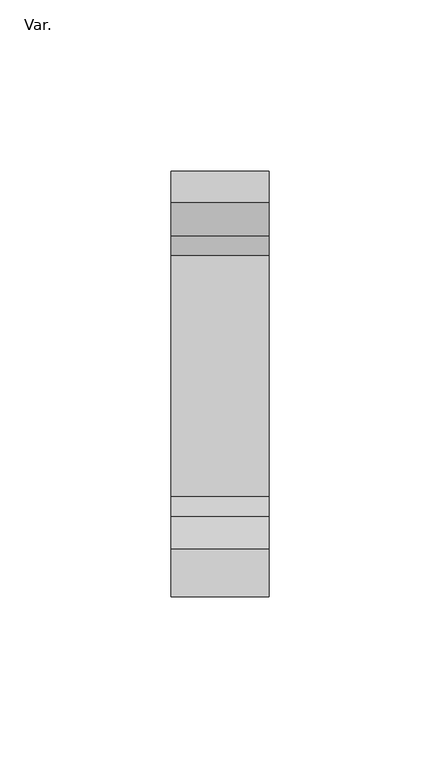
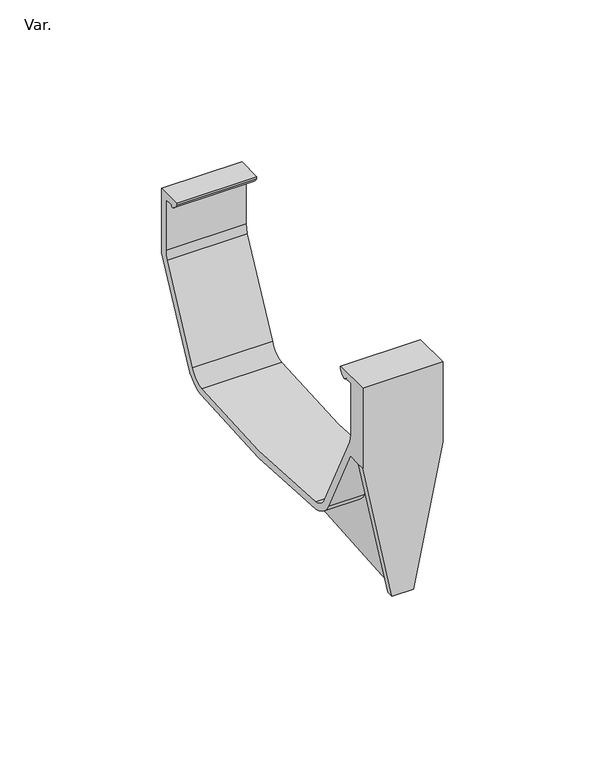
"""IFC4 building model written with IfcOpenShell, lengths in millimetres: pipe fitting geometry, PavcoWavin_UnionesDeTuberia_ZCanal Raingo_Soporte_NoUsarUnion : Var.."""

import ifcopenshell
import ifcopenshell.guid

model = None  # the IFC model being written
_history = None  # IfcOwnerHistory: only IFC2X3 demands one
_inside = {}  # id of a spatial element -> (the spatial element, [elements in it])
_under = {}  # id of a project, library or spatial element -> (it, [spatial elements below it])
_declared = {}  # id of a project -> (the project, [libraries it declares])
_typed = {}  # id of a type object -> (the type object, [elements of that type])
_made_of = {}  # id of a material, layer set ... -> (it, [elements and type objects made of it])


def new_model(schema):
    """Start an empty IFC model of exactly this schema.

    Asked for "IFC4X3", IfcOpenShell would pick the latest addendum, in which some entities
    have other attributes; the version numbers below select the first issue.
    IFC2X3 requires an IfcOwnerHistory on every rooted entity: one is made here for all.
    """
    global model, _history
    if schema == "IFC4X3":
        model = ifcopenshell.file(schema_version=(4, 3, 0, 0))
    else:
        model = ifcopenshell.file(schema=schema)
    _inside.clear()
    _under.clear()
    _declared.clear()
    _typed.clear()
    _made_of.clear()
    _history = None
    if model.schema == "IFC2X3":
        org = make("IfcOrganization", Name="unknown")
        user = make(
            "IfcPersonAndOrganization",
            ThePerson=make("IfcPerson", FamilyName="unknown"),
            TheOrganization=org,
        )
        app = make(
            "IfcApplication",
            ApplicationDeveloper=org,
            Version="unknown",
            ApplicationFullName="unknown",
            ApplicationIdentifier="unknown",
        )
        _history = make(
            "IfcOwnerHistory",
            OwningUser=user,
            OwningApplication=app,
            ChangeAction="ADDED",
            CreationDate=0,
        )
    return model


def make(cls, **values):
    """One entity of the class cls with the attributes given. An attribute that is None is left unset."""
    return model.create_entity(
        cls, **{name: value for name, value in values.items() if value is not None}
    )


def rooted(cls, **values):
    """An entity with a GlobalId (a new one), such as an element, a storey or a relation."""
    return make(cls, GlobalId=ifcopenshell.guid.new(), OwnerHistory=_history, **values)


def si_unit(unit_type, name, prefix=None):
    """IfcSIUnit, for example si_unit("LENGTHUNIT", "METRE", prefix="MILLI")."""
    return make("IfcSIUnit", UnitType=unit_type, Prefix=prefix, Name=name)


def assignment(units):
    """IfcUnitAssignment: the units of a project."""
    return None if units is None else make("IfcUnitAssignment", Units=units)


def point(xyz):
    """IfcCartesianPoint."""
    return None if xyz is None else make("IfcCartesianPoint", Coordinates=xyz)


def direction(xyz):
    """IfcDirection."""
    return None if xyz is None else make("IfcDirection", DirectionRatios=xyz)


def frame(location, z_axis=None, x_axis=None):
    """IfcAxis2Placement3D, a coordinate frame: its origin and axes. An axis left out is left unset."""
    return make(
        "IfcAxis2Placement3D",
        Location=point(location),
        Axis=direction(z_axis),
        RefDirection=direction(x_axis),
    )


def origin():
    """The frame at (0, 0, 0) with its axes left unset."""
    return frame((0.0, 0.0, 0.0))


def place(relative_to, where):
    """IfcLocalPlacement: puts the frame where relative to a parent placement (None: the world)."""
    return make(
        "IfcLocalPlacement", PlacementRelTo=relative_to, RelativePlacement=where
    )


def context(
    kind, dimensions, precision=None, world=None, true_north=None, identifier=None
):
    """IfcGeometricRepresentationContext, for example the 3D "Model" context."""
    return make(
        "IfcGeometricRepresentationContext",
        ContextIdentifier=identifier,
        ContextType=kind,
        CoordinateSpaceDimension=dimensions,
        Precision=precision,
        WorldCoordinateSystem=world,
        TrueNorth=true_north,
    )


def project(units=None, contexts=None):
    """IfcProject with its units and contexts."""
    return rooted(
        "IfcProject",
        Name="project",
        RepresentationContexts=contexts,
        UnitsInContext=assignment(units),
    )


def spatial(cls, under=None, at=None, **own):
    """A site, building, storey or space (cls), placed at a placement, below another one or the project."""
    s = rooted(cls, ObjectPlacement=at, **own)
    if under is not None:
        _under.setdefault(under.id(), (under, []))[1].append(s)
    return s


def polyline(points):
    """IfcPolyline through the points."""
    return make("IfcPolyline", Points=[point(p) for p in points])


def circle_curve(where, radius):
    """IfcCircle in the frame where."""
    return make("IfcCircle", Position=where, Radius=radius)


def shape(context_of_items, identifier, shape_type, items):
    """IfcShapeRepresentation: the items that make up one representation, for example the "Body"."""
    return make(
        "IfcShapeRepresentation",
        ContextOfItems=context_of_items,
        RepresentationIdentifier=identifier,
        RepresentationType=shape_type,
        Items=items,
    )


def source(mapping_origin, context_of_items, identifier, shape_type, items):
    """IfcRepresentationMap: a shape defined once, which mapped items show again and again."""
    return make(
        "IfcRepresentationMap",
        MappingOrigin=mapping_origin,
        MappedRepresentation=shape(context_of_items, identifier, shape_type, items),
    )


def transform(
    local_origin,
    x_axis=None,
    y_axis=None,
    z_axis=None,
    scale=None,
    scale2=None,
    scale3=None,
    uniform=True,
):
    """IfcCartesianTransformationOperator3D, or its non-uniform kind. x_axis, y_axis, z_axis: its Axis1, 2, 3."""
    if uniform:
        return make(
            "IfcCartesianTransformationOperator3D",
            Axis1=direction(x_axis),
            Axis2=direction(y_axis),
            LocalOrigin=point(local_origin),
            Scale=scale,
            Axis3=direction(z_axis),
        )
    return make(
        "IfcCartesianTransformationOperator3DnonUniform",
        Axis1=direction(x_axis),
        Axis2=direction(y_axis),
        LocalOrigin=point(local_origin),
        Scale=scale,
        Axis3=direction(z_axis),
        Scale2=scale2,
        Scale3=scale3,
    )


def mapped(mapping_source, mapping_target):
    """IfcMappedItem: shows the shape of a source again, moved by a transform."""
    return make(
        "IfcMappedItem", MappingSource=mapping_source, MappingTarget=mapping_target
    )


def made_of(thing, what):
    """Note that an element or type object is made of a material, layer set ...; save() writes the relation."""
    if what is not None:
        _made_of.setdefault(what.id(), (what, []))[1].append(thing)
    return thing


def element(
    cls,
    number,
    at=None,
    inside=None,
    cuts=None,
    type_object=None,
    material=None,
    context=None,
    identifier="Body",
    shape_type=None,
    held_by="IfcProductDefinitionShape",
    body=None,
    shapes=None,
    **own,
):
    """One element of the class cls, such as IfcWall. Its Tag is "e" and its number.

    at: its placement. inside: the storey or other place that contains it. cuts: it is an
    opening in that element (IfcRelVoidsElement). A single representation is given by context,
    identifier, shape_type and body (its items); several are given by shapes. held_by: the class
    of the entity that holds the representations. save() writes the other relations.
    """
    e = rooted(cls, Tag="e%d" % number, ObjectPlacement=at, **own)
    if body is not None:
        shapes = [shape(context, identifier, shape_type, body)]
    if shapes is not None:
        e.Representation = make(held_by, Representations=shapes)
    if inside is not None:
        _inside.setdefault(inside.id(), (inside, []))[1].append(e)
    if cuts is not None:
        rooted(
            "IfcRelVoidsElement", RelatingBuildingElement=cuts, RelatedOpeningElement=e
        )
    if type_object is not None:
        _typed.setdefault(type_object.id(), (type_object, []))[1].append(e)
    return made_of(e, material)


def aggregate(whole, parts):
    """IfcRelAggregates: a whole, such as a stair, and the parts it consists of."""
    return rooted("IfcRelAggregates", RelatingObject=whole, RelatedObjects=parts)


def save(model, path):
    """Write the relations noted so far, then the file.

    IfcRelAggregates (storeys below a building ...), IfcRelContainedInSpatialStructure (elements
    in a storey), IfcRelDefinesByType, IfcRelAssociatesMaterial and IfcRelDeclares: one each for
    every whole, place, type object, material and project.
    """
    for whole, parts in _under.values():
        aggregate(whole, parts)
    for where, things in _inside.values():
        rooted(
            "IfcRelContainedInSpatialStructure",
            RelatedElements=things,
            RelatingStructure=where,
        )
    for kind, things in _typed.values():
        rooted("IfcRelDefinesByType", RelatedObjects=things, RelatingType=kind)
    for what, things in _made_of.values():
        rooted("IfcRelAssociatesMaterial", RelatedObjects=things, RelatingMaterial=what)
    for by, libraries in _declared.values():
        rooted("IfcRelDeclares", RelatingContext=by, RelatedDefinitions=libraries)
    model.write(path)


def plane_surface(at):
    """IfcPlane: the flat surface through the origin of the frame at, square to its z axis."""
    return make("IfcPlane", Position=at)


def cylinder_surface(at, radius):
    """IfcCylindricalSurface: all points at the distance radius from the z axis of the frame at."""
    return make("IfcCylindricalSurface", Position=at, Radius=radius)


def revolved_surface(curve, axis_point, axis_direction):
    """IfcSurfaceOfRevolution: the curve turned about the line through axis_point along axis_direction."""
    return make(
        "IfcSurfaceOfRevolution",
        SweptCurve=make("IfcArbitraryOpenProfileDef", ProfileType="CURVE", Curve=curve),
        AxisPosition=make("IfcAxis1Placement", Location=point(axis_point), Axis=direction(axis_direction)),
    )


def advanced_brep(points, edges, surfaces, faces):
    """IfcAdvancedBrep: a solid bounded by faces that lie on surfaces and meet in shared edges.

    An edge is (start, end): straight between two places in points (the first is 0);
    or (start, end, curve); or (start, end, curve, False) where it runs against its curve.
    A face is (place in surfaces, loops), or (place, loops, False) where it looks against
    its surface's normal. A loop lists edges by number (the first is 1), with a minus sign
    where the edge is run from its end to its start. The first loop is the outer one.
    """
    corners = [point(p) for p in points]
    vertices = [make("IfcVertexPoint", VertexGeometry=c) for c in corners]
    made = []
    for start, end, *more in edges:
        made.append(
            make(
                "IfcEdgeCurve",
                EdgeStart=vertices[start],
                EdgeEnd=vertices[end],
                EdgeGeometry=more[0] if more else make("IfcPolyline", Points=[corners[start], corners[end]]),
                SameSense=more[1] if len(more) > 1 else True,
            )
        )
    hull = []
    for where, loops, *sense in faces:
        bounds = []
        for j, loop in enumerate(loops):
            ring = [make("IfcOrientedEdge", EdgeElement=made[abs(k) - 1], Orientation=k > 0) for k in loop]
            bounds.append(
                make(
                    "IfcFaceOuterBound" if j == 0 else "IfcFaceBound",
                    Bound=make("IfcEdgeLoop", EdgeList=ring),
                    Orientation=True,
                )
            )
        hull.append(make("IfcAdvancedFace", Bounds=bounds, FaceSurface=surfaces[where], SameSense=sense[0] if sense else True))
    return make("IfcAdvancedBrep", Outer=make("IfcClosedShell", CfsFaces=hull))


def var_95f52222(model_context):
    return source(origin(), model_context, "Body", "AdvancedBrep", [
        advanced_brep(
        [(14.275, 59.74, 57.8143059), (14.275, 59.74, 82.0566501), (14.275, 50.65, 82.0566501), (14.275, 50.65, 81.2566501), (14.275, 53.0835657, 78.8230844), (14.275, 53.8, 79.4666501), (14.275, 57.15, 79.4666501), (14.275, 57.15, 60.3166501), (14.275, 56.4709703, 57.0639679), (14.275, 40.8948641, 25.8513061), (14.275, 35.1949678, 21.5054585), (14.275, -35.1949678, 21.5054585), (14.275, -40.8948641, 25.8513061), (14.275, -56.4709703, 57.0639679), (14.275, -57.15, 60.3166501), (14.275, -57.15, 79.4666501), (14.275, -53.8, 79.4666501), (14.275, -53.0835657, 78.8230844), (14.275, -50.65, 81.2566501), (14.275, -50.65, 82.0566501), (14.275, -64.46, 82.0566501), (14.275, -64.46, 51.9166501), (14.275, -61.84, 51.9166501), (14.275, -56.7968831, 51.9166501), (14.275, -43.2123274, 24.6948186), (14.275, -35.5891114, 18.9438504), (14.275, 35.5891114, 18.9438504), (14.275, 43.2123274, 24.6948186), (-14.275, -64.46, 82.0566501), (-14.275, -50.65, 82.0566501), (-14.275, -50.65, 81.2566501), (-14.275, -53.0835657, 78.8230844), (-14.275, -53.8, 79.4666501), (-14.275, -57.15, 79.4666501), (-14.275, -57.15, 60.3166501), (-14.275, -56.4709703, 57.0639679), (-14.275, -40.8948641, 25.8513061), (-14.275, -35.1949678, 21.5054585), (-14.275, 35.1949678, 21.5054585), (-14.275, 40.8948641, 25.8513061), (-14.275, 56.4709703, 57.0639679), (-14.275, 57.15, 60.3166501), (-14.275, 57.15, 79.4666501), (-14.275, 53.8, 79.4666501), (-14.275, 53.0835657, 78.8230844), (-14.275, 50.65, 81.2566501), (-14.275, 50.65, 82.0566501), (-14.275, 59.74, 82.0566501), (-14.275, 59.74, 57.8143059), (-14.275, 43.2123274, 24.6948186), (-14.275, 35.5891114, 18.9438504), (-14.275, -35.5891114, 18.9438504), (-14.275, -43.2123274, 24.6948186), (-14.275, -56.7968831, 51.9166501), (-14.275, -61.84, 51.9166501), (-14.275, -64.46, 51.9166501), (-3.83, -64.46, 0.0), (3.83, -64.46, 0.0), (-1.265, -61.84, 0.0), (1.265, -61.84, 0.0), (3.83, -61.84, 0.0), (-3.83, -61.84, 0.0), (1.265, 40.2631031, 7.8814014), (-1.265, 40.2631031, 7.8814014), (1.265, 44.6335776, 11.3214876), (-1.265, 44.6335776, 11.3214876), (1.265, 59.74, 57.8143059), (-1.265, 59.74, 57.8143059), (1.265, -43.2123274, 24.6948186), (1.265, -56.7968831, 51.9166501), (1.265, -61.84, 51.9166501), (1.265, 43.2123274, 24.6948186), (1.265, 35.5891114, 18.9438504), (1.265, -35.5891114, 18.9438504), (-1.265, -43.2123274, 24.6948186), (-1.265, -35.5891114, 18.9438504), (-1.265, 35.5891114, 18.9438504), (-1.265, 43.2123274, 24.6948186), (-1.265, -61.84, 51.9166501), (-1.265, -56.7968831, 51.9166501)],
        [
            (0, 1),
            (1, 2),
            (2, 3),
            (3, 4, circle_curve(frame((14.275, 55.4114181, 83.5845026), z_axis=(1.0, 0.0, 0.0), x_axis=(0.0, 1.0, 0.0)), 5.3)),
            (4, 5, circle_curve(frame((14.275, 53.1527286, 79.4666501), z_axis=(1.0, 0.0, 0.0), x_axis=(0.0, 1.0, 0.0)), 0.6472714)),
            (5, 6),
            (6, 7),
            (7, 8, circle_curve(frame((14.275, 49.02, 60.3166501), z_axis=(-1.0, 0.0, 0.0), x_axis=(0.0, -1.0, 0.0)), 8.13)),
            (8, 9),
            (9, 10, circle_curve(frame((14.275, 33.6203555, 29.4815162), z_axis=(-1.0, 0.0, 0.0), x_axis=(0.0, -1.0, 0.0)), 8.13)),
            (10, 11, circle_curve(frame((14.275, 0.0, 324.2666751), z_axis=(-1.0, 0.0, 0.0), x_axis=(0.0, 1.0, 0.0)), 304.8)),
            (11, 12, circle_curve(frame((14.275, -33.6203555, 29.4815162), z_axis=(-1.0, 0.0, 0.0), x_axis=(0.0, 1.0, 0.0)), 8.13)),
            (12, 13),
            (13, 14, circle_curve(frame((14.275, -49.02, 60.3166501), z_axis=(-1.0, 0.0, 0.0), x_axis=(0.0, 1.0, 0.0)), 8.13)),
            (14, 15),
            (15, 16),
            (16, 17, circle_curve(frame((14.275, -53.1527286, 79.4666501), z_axis=(1.0, 0.0, 0.0), x_axis=(0.0, -1.0, 0.0)), 0.6472714)),
            (17, 18, circle_curve(frame((14.275, -55.4114181, 83.5845026), z_axis=(1.0, 0.0, 0.0), x_axis=(0.0, -1.0, 0.0)), 5.3)),
            (18, 19),
            (19, 20),
            (20, 21),
            (21, 22),
            (22, 23),
            (23, 24),
            (24, 25, circle_curve(frame((14.275, -33.6203555, 29.4815162), z_axis=(1.0, 0.0, 0.0), x_axis=(0.0, 1.0, 0.0)), 10.72)),
            (25, 26, circle_curve(frame((14.275, 0.0, 324.2666751), z_axis=(1.0, 0.0, 0.0), x_axis=(0.0, 1.0, 0.0)), 307.39)),
            (26, 27, circle_curve(frame((14.275, 33.6203555, 29.4815162), z_axis=(1.0, 0.0, 0.0), x_axis=(0.0, -1.0, 0.0)), 10.72)),
            (27, 0),
            (28, 29),
            (29, 30),
            (30, 31, circle_curve(frame((-14.275, -55.4114181, 83.5845026), z_axis=(-1.0, 0.0, 0.0), x_axis=(0.0, -1.0, 0.0)), 5.3)),
            (31, 32, circle_curve(frame((-14.275, -53.1527286, 79.4666501), z_axis=(-1.0, 0.0, 0.0), x_axis=(0.0, -1.0, 0.0)), 0.6472714)),
            (32, 33),
            (33, 34),
            (34, 35, circle_curve(frame((-14.275, -49.02, 60.3166501), z_axis=(1.0, 0.0, 0.0), x_axis=(0.0, 1.0, 0.0)), 8.13)),
            (35, 36),
            (36, 37, circle_curve(frame((-14.275, -33.6203555, 29.4815162), z_axis=(1.0, 0.0, 0.0), x_axis=(0.0, 1.0, 0.0)), 8.13)),
            (37, 38, circle_curve(frame((-14.275, 0.0, 324.2666751), z_axis=(1.0, 0.0, 0.0), x_axis=(0.0, 1.0, 0.0)), 304.8)),
            (38, 39, circle_curve(frame((-14.275, 33.6203555, 29.4815162), z_axis=(1.0, 0.0, 0.0), x_axis=(0.0, -1.0, 0.0)), 8.13)),
            (39, 40),
            (40, 41, circle_curve(frame((-14.275, 49.02, 60.3166501), z_axis=(1.0, 0.0, 0.0), x_axis=(0.0, -1.0, 0.0)), 8.13)),
            (41, 42),
            (42, 43),
            (43, 44, circle_curve(frame((-14.275, 53.1527286, 79.4666501), z_axis=(-1.0, 0.0, 0.0), x_axis=(0.0, 1.0, 0.0)), 0.6472714)),
            (44, 45, circle_curve(frame((-14.275, 55.4114181, 83.5845026), z_axis=(-1.0, 0.0, 0.0), x_axis=(0.0, 1.0, 0.0)), 5.3)),
            (45, 46),
            (46, 47),
            (47, 48),
            (48, 49),
            (49, 50, circle_curve(frame((-14.275, 33.6203555, 29.4815162), z_axis=(-1.0, 0.0, 0.0), x_axis=(0.0, -1.0, 0.0)), 10.72)),
            (50, 51, circle_curve(frame((-14.275, 0.0, 324.2666751), z_axis=(-1.0, 0.0, 0.0), x_axis=(0.0, 1.0, 0.0)), 307.39)),
            (51, 52, circle_curve(frame((-14.275, -33.6203555, 29.4815162), z_axis=(-1.0, 0.0, 0.0), x_axis=(0.0, 1.0, 0.0)), 10.72)),
            (52, 53),
            (53, 54),
            (54, 55),
            (55, 28),
            (20, 28),
            (55, 56),
            (56, 57),
            (57, 21),
            (1, 47),
            (46, 2),
            (45, 3),
            (44, 4),
            (43, 5),
            (42, 6),
            (14, 34),
            (33, 15),
            (32, 16),
            (31, 17),
            (30, 18),
            (29, 19),
            (41, 7),
            (40, 8),
            (39, 9),
            (38, 10),
            (37, 11),
            (36, 12),
            (35, 13),
            (58, 59),
            (59, 60),
            (60, 57),
            (56, 61),
            (61, 58),
            (62, 59),
            (58, 63),
            (63, 62),
            (64, 62, circle_curve(frame((1.265, 39.8782947, 12.8665717), z_axis=(-1.0, 0.0, 0.0), x_axis=(0.0, 1.0, 0.0)), 5.0)),
            (63, 65, circle_curve(frame((-1.265, 39.8782947, 12.8665717), z_axis=(1.0, 0.0, 0.0), x_axis=(0.0, 1.0, 0.0)), 5.0)),
            (65, 64),
            (66, 64),
            (65, 67),
            (67, 66),
            (0, 66),
            (67, 48),
            (68, 69),
            (69, 70),
            (70, 59),
            (66, 71),
            (71, 72, circle_curve(frame((1.265, 33.6203555, 29.4815162), z_axis=(-1.0, 0.0, 0.0), x_axis=(0.0, -1.0, 0.0)), 10.72)),
            (72, 73, circle_curve(frame((1.265, 0.0, 324.2666751), z_axis=(-1.0, 0.0, 0.0), x_axis=(0.0, 1.0, 0.0)), 307.39)),
            (73, 68, circle_curve(frame((1.265, -33.6203555, 29.4815162), z_axis=(-1.0, 0.0, 0.0), x_axis=(0.0, 1.0, 0.0)), 10.72)),
            (68, 24),
            (23, 69),
            (22, 70),
            (22, 60),
            (27, 71),
            (26, 72),
            (25, 73),
            (74, 75, circle_curve(frame((-1.265, -33.6203555, 29.4815162), z_axis=(1.0, 0.0, 0.0), x_axis=(0.0, 1.0, 0.0)), 10.72)),
            (75, 76, circle_curve(frame((-1.265, 0.0, 324.2666751), z_axis=(1.0, 0.0, 0.0), x_axis=(0.0, 1.0, 0.0)), 307.39)),
            (76, 77, circle_curve(frame((-1.265, 33.6203555, 29.4815162), z_axis=(1.0, 0.0, 0.0), x_axis=(0.0, -1.0, 0.0)), 10.72)),
            (77, 67),
            (58, 78),
            (78, 79),
            (79, 74),
            (79, 53),
            (52, 74),
            (78, 54),
            (61, 54),
            (77, 49),
            (76, 50),
            (75, 51),
        ],
        [
            plane_surface(frame((14.275, -64.46, 0.0), z_axis=(1.0, 0.0, 0.0), x_axis=(0.0, 0.0, -1.0))),
            plane_surface(frame((-14.275, -64.46, 0.0), z_axis=(-1.0, 0.0, 0.0), x_axis=(0.0, 0.0, 1.0))),
            plane_surface(frame((14.275, -64.46, 82.0566501), z_axis=(0.0, -1.0, 0.0), x_axis=(-1.0, 0.0, 0.0))),
            plane_surface(frame((14.275, 59.74, 82.0566501), z_axis=(0.0, 0.0, 1.0), x_axis=(-1.0, 0.0, 0.0))),
            plane_surface(frame((14.275, 50.65, 82.0566501), z_axis=(0.0, -1.0, 0.0), x_axis=(-1.0, 0.0, 0.0))),
            cylinder_surface(frame((-14.275, 55.4114181, 83.5845026), z_axis=(1.0, 0.0, 0.0), x_axis=(0.0, 1.0, 0.0)), 5.3),
            cylinder_surface(frame((-14.275, 53.1527286, 79.4666501), z_axis=(1.0, 0.0, 0.0), x_axis=(0.0, 1.0, 0.0)), 0.6472714),
            plane_surface(frame((14.275, 53.8, 79.4666501), z_axis=(0.0, 0.0, -1.0), x_axis=(-1.0, 0.0, 0.0))),
            plane_surface(frame((14.275, -57.15, 60.3166501), z_axis=(0.0, 1.0, 0.0), x_axis=(-1.0, 0.0, 0.0))),
            plane_surface(frame((14.275, -57.15, 79.4666501), z_axis=(0.0, 0.0, -1.0), x_axis=(-1.0, 0.0, 0.0))),
            cylinder_surface(frame((-14.275, -53.1527286, 79.4666501), z_axis=(1.0, 0.0, 0.0), x_axis=(0.0, -1.0, 0.0)), 0.6472714),
            cylinder_surface(frame((-14.275, -55.4114181, 83.5845026), z_axis=(1.0, 0.0, 0.0), x_axis=(0.0, -1.0, 0.0)), 5.3),
            plane_surface(frame((14.275, -50.65, 81.2566501), z_axis=(0.0, 1.0, 0.0), x_axis=(-1.0, 0.0, 0.0))),
            plane_surface(frame((14.275, -50.65, 82.0566501), z_axis=(0.0, 0.0, 1.0), x_axis=(-1.0, 0.0, 0.0))),
            plane_surface(frame((14.275, 57.15, 79.4666501), z_axis=(0.0, -1.0, 0.0), x_axis=(-1.0, 0.0, 0.0))),
            revolved_surface(polyline([(-14.275, 40.89, 60.3166501), (14.275, 40.89, 60.3166501)]), (-14.275, 49.02, 60.3166501), (-1.0, 0.0, 0.0)),
            plane_surface(frame((14.275, 56.4709703, 57.0639679), z_axis=(0.0, -0.8947735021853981, 0.4465203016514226), x_axis=(-1.0, 0.0, 0.0))),
            revolved_surface(polyline([(-14.275, 25.4903555, 29.4815162), (14.275, 25.4903555, 29.4815162)]), (-14.275, 33.6203555, 29.4815162), (-1.0, 0.0, 0.0)),
            revolved_surface(polyline([(-14.275, 304.8, 324.2666751), (14.275, 304.8, 324.2666751)]), (-14.275, 0.0, 324.2666751), (-1.0, 0.0, 0.0)),
            revolved_surface(polyline([(-14.275, -25.4903555, 29.4815162), (14.275, -25.4903555, 29.4815162)]), (-14.275, -33.6203555, 29.4815162), (-1.0, 0.0, 0.0)),
            plane_surface(frame((14.275, -40.8948641, 25.8513061), z_axis=(0.0, 0.8947735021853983, 0.4465203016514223), x_axis=(-1.0, 0.0, 0.0))),
            revolved_surface(polyline([(-14.275, -40.89, 60.3166501), (14.275, -40.89, 60.3166501)]), (-14.275, -49.02, 60.3166501), (-1.0, 0.0, 0.0)),
            plane_surface(frame((14.275, -64.46, 0.0), z_axis=(0.0, 0.0, -1.0), x_axis=(-1.0, 0.0, 0.0))),
            plane_surface(frame((14.275, -61.84, 0.0), z_axis=(0.0, 0.07696167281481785, -0.9970340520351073), x_axis=(-1.0, 0.0, 0.0))),
            cylinder_surface(frame((-14.275, 39.8782947, 12.8665717), z_axis=(1.0, 0.0, 0.0), x_axis=(0.0, 1.0, 0.0)), 5.0),
            plane_surface(frame((14.275, 44.6335776, 11.3214876), z_axis=(0.0, 0.9510565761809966, -0.30901681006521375), x_axis=(-1.0, 0.0, 0.0))),
            plane_surface(frame((14.275, 59.74, 57.8143059), z_axis=(0.0, 1.0, 0.0), x_axis=(-1.0, 0.0, 0.0))),
            plane_surface(frame((1.265, -58.7884337, 55.9074803), z_axis=(1.0000000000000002, 0.0, 0.0), x_axis=(0.0, 0.44652030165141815, -0.8947735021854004))),
            plane_surface(frame((14.275, -43.2123274, 24.6948186), z_axis=(0.0, -0.8947735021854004, -0.44652030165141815), x_axis=(-1.0, 0.0, 0.0))),
            plane_surface(frame((14.275, -56.7968831, 51.9166501), z_axis=(0.0, 0.0, -1.0), x_axis=(-1.0, 0.0, 0.0))),
            plane_surface(frame((14.275, -61.84, 51.9166501), z_axis=(0.0, 1.0, 0.0), x_axis=(-1.0, 0.0, 0.0))),
            plane_surface(frame((14.275, 59.74, 57.8143059), z_axis=(0.0, 0.8947735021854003, -0.44652030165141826), x_axis=(-1.0, 0.0, 0.0))),
            cylinder_surface(frame((1.265, 33.6203555, 29.4815162), z_axis=(-1.0, 0.0, 0.0), x_axis=(0.0, -1.0, 0.0)), 10.72),
            cylinder_surface(frame((1.265, 0.0, 324.2666751), z_axis=(-1.0, 0.0, 0.0), x_axis=(0.0, 1.0, 0.0)), 307.39),
            cylinder_surface(frame((1.265, -33.6203555, 29.4815162), z_axis=(-1.0, 0.0, 0.0), x_axis=(0.0, 1.0, 0.0)), 10.72),
            plane_surface(frame((-1.265, -22.9003555, 29.4815162), z_axis=(-1.0, 0.0, 0.0), x_axis=(0.0, 0.0, -1.0))),
            plane_surface(frame((-14.275, -56.7968831, 51.9166501), z_axis=(0.0, -0.8947735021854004, -0.44652030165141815), x_axis=(1.0, 0.0, 0.0))),
            plane_surface(frame((-14.275, -61.84, 51.9166501), z_axis=(0.0, 0.0, -1.0), x_axis=(1.0, 0.0, 0.0))),
            plane_surface(frame((-14.275, -61.84, 0.0), z_axis=(0.0, 1.0, 0.0), x_axis=(1.0, 0.0, 0.0))),
            plane_surface(frame((-14.275, 43.2123274, 24.6948186), z_axis=(0.0, 0.8947735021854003, -0.44652030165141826), x_axis=(1.0, 0.0, 0.0))),
            cylinder_surface(frame((-1.265, 33.6203555, 29.4815162), z_axis=(1.0, 0.0, 0.0), x_axis=(0.0, -1.0, 0.0)), 10.72),
            cylinder_surface(frame((-1.265, 0.0, 324.2666751), z_axis=(1.0, 0.0, 0.0), x_axis=(0.0, 1.0, 0.0)), 307.39),
            cylinder_surface(frame((-1.265, -33.6203555, 29.4815162), z_axis=(1.0, 0.0, 0.0), x_axis=(0.0, 1.0, 0.0)), 10.72),
            plane_surface(frame((-3.83, -64.46, 0.0), z_axis=(-0.9803560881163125, 0.0, -0.19723574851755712), x_axis=(0.0, 1.0, 0.0))),
            plane_surface(frame((14.275, -64.46, 51.9166501), z_axis=(0.9803560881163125, 0.0, -0.19723574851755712), x_axis=(0.0, 1.0, 0.0))),
        ],
        [
            (0, [[1, 2, 3, 4, 5, 6, 7, 8, 9, 10, 11, 12, 13, 14, 15, 16, 17, 18, 19, 20, 21, 22, 23, 24, 25, 26, 27, 28]]),
            (1, [[29, 30, 31, 32, 33, 34, 35, 36, 37, 38, 39, 40, 41, 42, 43, 44, 45, 46, 47, 48, 49, 50, 51, 52, 53, 54, 55, 56]]),
            (2, [[57, -56, 58, 59, 60, -21]]),
            (3, [[-2, 61, -47, 62]]),
            (4, [[-3, -62, -46, 63]]),
            (5, [[-4, -63, -45, 64]]),
            (6, [[-5, -64, -44, 65]]),
            (7, [[-6, -65, -43, 66]]),
            (8, [[-15, 67, -34, 68]]),
            (9, [[-16, -68, -33, 69]]),
            (10, [[-17, -69, -32, 70]]),
            (11, [[-18, -70, -31, 71]]),
            (12, [[-19, -71, -30, 72]]),
            (13, [[-20, -72, -29, -57]]),
            (14, [[-7, -66, -42, 73]]),
            (15, [[-8, -73, -41, 74]]),
            (16, [[-9, -74, -40, 75]]),
            (17, [[-10, -75, -39, 76]]),
            (18, [[-11, -76, -38, 77]]),
            (19, [[-12, -77, -37, 78]]),
            (20, [[-13, -78, -36, 79]]),
            (21, [[-14, -79, -35, -67]]),
            (22, [[80, 81, 82, -59, 83, 84]]),
            (23, [[85, -80, 86, 87]]),
            (24, [[88, -87, 89, 90]]),
            (25, [[91, -90, 92, 93]]),
            (26, [[-1, 94, -93, 95, -48, -61]]),
            (27, [[96, 97, 98, -85, -88, -91, 99, 100, 101, 102]]),
            (28, [[-96, 103, -24, 104]]),
            (29, [[-97, -104, -23, 105]]),
            (30, [[-98, -105, 106, -81]]),
            (31, [[-99, -94, -28, 107]]),
            (32, [[-100, -107, -27, 108]]),
            (33, [[-101, -108, -26, 109]]),
            (34, [[-102, -109, -25, -103]]),
            (35, [[110, 111, 112, 113, -92, -89, -86, 114, 115, 116]]),
            (36, [[-116, 117, -53, 118]]),
            (37, [[-115, 119, -54, -117]]),
            (38, [[-114, -84, 120, -119]]),
            (39, [[-113, 121, -49, -95]]),
            (40, [[-112, 122, -50, -121]]),
            (41, [[-111, 123, -51, -122]]),
            (42, [[-110, -118, -52, -123]]),
            (43, [[-55, -120, -83, -58]]),
            (44, [[-22, -60, -82, -106]]),
        ],
    ),
    ])


if __name__ == "__main__":
    model = new_model("IFC4")
    model_context = context("Model", 3, world=origin())
    ifc_project = project(units=[si_unit("LENGTHUNIT", "METRE", prefix="MILLI")], contexts=[model_context])
    site = spatial("IfcSite", under=ifc_project)
    building = spatial("IfcBuilding", under=site)
    placement = place(None, origin())
    var_shape = var_95f52222(model_context)
    element("IfcPipeFitting", 1, ObjectType="PavcoWavin_UnionesDeTuberia_ZCanal Raingo_Soporte_NoUsarUnion : Var.", at=placement, inside=building, context=model_context, shape_type="MappedRepresentation", body=[
        mapped(var_shape, transform((0.0, 0.0, 0.0), x_axis=(1.0, 0.0, 0.0), y_axis=(0.0, 1.0, 0.0), z_axis=(0.0, 0.0, 1.0))),
    ])
    save(model, "model.ifc")
